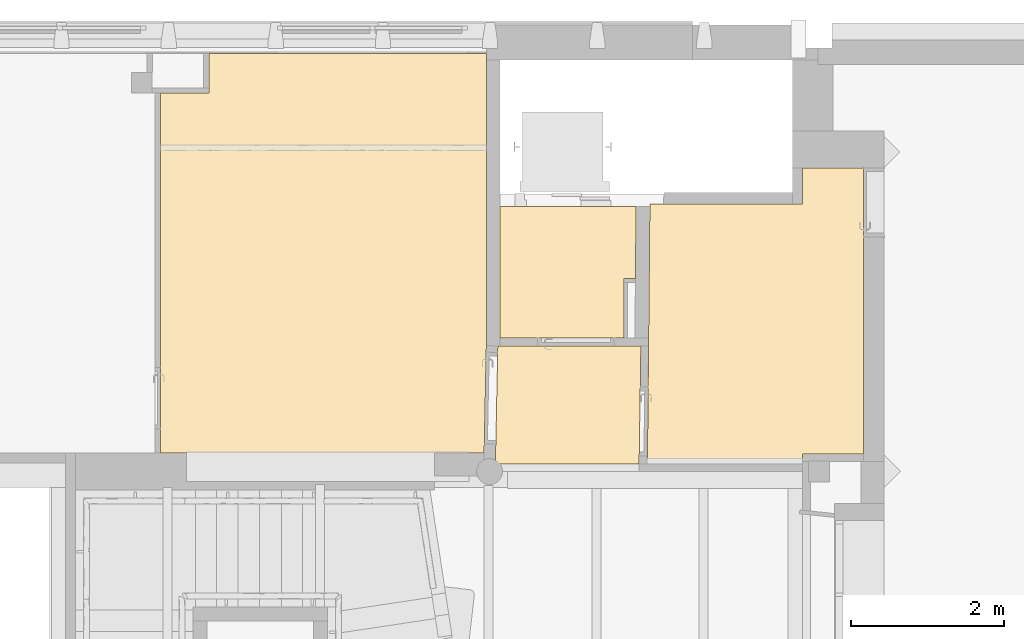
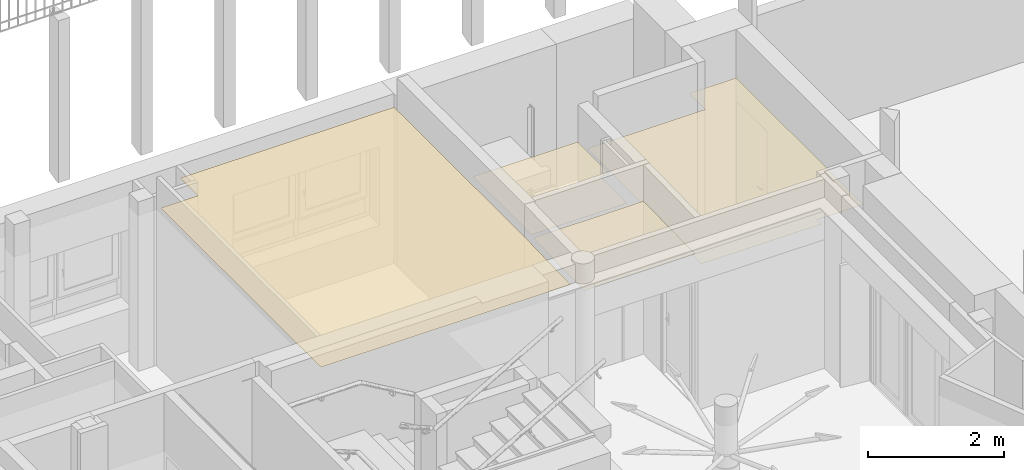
# One storey, part 57 of 65: 5 coverings.
"""IFC4 building model written with IfcOpenShell, lengths in metres."""

from ifc_helpers import new_model, entity, si_unit, converted_unit, derived_unit, direction, frame, origin, place, context, subcontext, project, spatial, polygons, material, layer, layer_set, type_object, element, save


model = new_model("IFC4")

# Units and contexts
model_context = context("Model", 3, precision=1e-05, world=origin(), true_north=direction((6.12303176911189e-17, 1.0)))
body_context = subcontext(model_context, "Body", "Model", "MODEL_VIEW")
ifc_project = project(units=[si_unit("LENGTHUNIT", "METRE"), si_unit("AREAUNIT", "SQUARE_METRE"), si_unit("VOLUMEUNIT", "CUBIC_METRE"), converted_unit("PLANEANGLEUNIT", "DEGREE", entity("IfcRatioMeasure", 0.0174532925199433), si_unit("PLANEANGLEUNIT", "RADIAN"), dimensions=[0, 0, 0, 0, 0, 0, 0]), si_unit("MASSUNIT", "GRAM", prefix="KILO"), derived_unit("MASSDENSITYUNIT", [(si_unit("MASSUNIT", "GRAM", prefix="KILO"), 1), (si_unit("LENGTHUNIT", "METRE"), -3)]), derived_unit("MOMENTOFINERTIAUNIT", [(si_unit("LENGTHUNIT", "METRE"), 4)]), si_unit("TIMEUNIT", "SECOND"), si_unit("FREQUENCYUNIT", "HERTZ"), si_unit("THERMODYNAMICTEMPERATUREUNIT", "DEGREE_CELSIUS"), derived_unit("THERMALTRANSMITTANCEUNIT", [(si_unit("MASSUNIT", "GRAM", prefix="KILO"), 1), (si_unit("THERMODYNAMICTEMPERATUREUNIT", "KELVIN"), -1), (si_unit("TIMEUNIT", "SECOND"), -3)]), derived_unit("VOLUMETRICFLOWRATEUNIT", [(si_unit("LENGTHUNIT", "METRE"), 3), (si_unit("TIMEUNIT", "SECOND"), -1)]), si_unit("ELECTRICCURRENTUNIT", "AMPERE"), si_unit("ELECTRICVOLTAGEUNIT", "VOLT"), si_unit("POWERUNIT", "WATT"), si_unit("FORCEUNIT", "NEWTON", prefix="KILO"), si_unit("ILLUMINANCEUNIT", "LUX"), si_unit("LUMINOUSFLUXUNIT", "LUMEN"), si_unit("LUMINOUSINTENSITYUNIT", "CANDELA"), derived_unit("USERDEFINED", [(si_unit("MASSUNIT", "GRAM", prefix="KILO"), -1), (si_unit("LENGTHUNIT", "METRE"), -2), (si_unit("TIMEUNIT", "SECOND"), 3), (si_unit("LUMINOUSFLUXUNIT", "LUMEN"), 1)]), derived_unit("LINEARVELOCITYUNIT", [(si_unit("LENGTHUNIT", "METRE"), 1), (si_unit("TIMEUNIT", "SECOND"), -1)]), si_unit("PRESSUREUNIT", "PASCAL"), derived_unit("USERDEFINED", [(si_unit("LENGTHUNIT", "METRE"), -2), (si_unit("MASSUNIT", "GRAM", prefix="KILO"), 1), (si_unit("TIMEUNIT", "SECOND"), -2)]), derived_unit("LINEARFORCEUNIT", [(si_unit("MASSUNIT", "GRAM", prefix="KILO"), 1), (si_unit("LENGTHUNIT", "METRE"), 1), (si_unit("TIMEUNIT", "SECOND"), -2), (si_unit("LENGTHUNIT", "METRE"), -1)]), derived_unit("PLANARFORCEUNIT", [(si_unit("MASSUNIT", "GRAM", prefix="KILO"), 1), (si_unit("LENGTHUNIT", "METRE"), 1), (si_unit("TIMEUNIT", "SECOND"), -2), (si_unit("LENGTHUNIT", "METRE"), -2)])], contexts=[model_context])

# Site, building, storey
site_placement = place(None, origin())
site = spatial("IfcSite", under=ifc_project, at=site_placement, Name="Default", CompositionType="ELEMENT")
building_placement = place(site_placement, origin())
building = spatial("IfcBuilding", under=site, at=building_placement, Name="HOTEL CONSULAIRE BOULOGNE SUR MER", CompositionType="ELEMENT")
storey_placement = place(building_placement, origin())
storey = spatial("IfcBuildingStorey", under=building, at=storey_placement, Name="Niveau 0", CompositionType="ELEMENT", Elevation=1.31981936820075e-13)

# Coverings
ifc_material = material(Name="Faux-plafond - Trame 600 x 600", Category="Divers")
ifc_layer = layer(ifc_material, 0.0, Name="Faux-plafond - Trame 600 x 600", Category="Divers")
ifc_layer_set = layer_set([ifc_layer], Name="Plafond de base:Plafond 600 mm x 1200 mm")
covering_type_1 = type_object("IfcCoveringType", Name="Plafond de base:Plafond 600 mm x 1200 mm", PredefinedType="CEILING")
covering_1_placement = place(storey_placement, frame((7.3089802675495, -13.8723552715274, 2.7177)))
element("IfcCovering", 1, at=covering_1_placement, inside=storey, type_object=covering_type_1, material=ifc_layer_set, Name="Plafond de base:Plafond 600 mm x 1200 mm", ObjectType="Plafond de base:Plafond 600 mm x 1200 mm", PredefinedType="CEILING", context=body_context, shape_type="Tessellation", body=[
    polygons([(1.61726908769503, 0.0, 1.27852954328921e-16), (1.61726908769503, 0.776000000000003, 1.27852954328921e-16), (1.76812731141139, 0.776000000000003, 1.27852954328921e-16), (1.77722668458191, 1.72156396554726, 1.27852954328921e-16), (3.24860138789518e-15, 1.72156396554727, 1.27852954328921e-16), (0.0, 6.49720277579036e-15, 1.27852954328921e-16)], [[[5, 6, 1, 2, 3, 4]]], closed=True),
])
covering_type_2 = type_object("IfcCoveringType", Name="Plafond de base:Plafond 600 mm x 1200 mm", PredefinedType="CEILING")
covering_2_placement = place(storey_placement, frame((2.87235114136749, -15.3752420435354, 2.8109)))
element("IfcCovering", 2, at=covering_2_placement, inside=storey, type_object=covering_type_2, material=ifc_layer_set, Name="Plafond de base:Plafond 600 mm x 1200 mm", ObjectType="Plafond de base:Plafond 600 mm x 1200 mm", PredefinedType="CEILING", context=body_context, shape_type="Tessellation", body=[
    polygons([(-5.41433564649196e-16, 6.49720277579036e-15, 1.27852954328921e-16), (3.57888730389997, 0.0, 1.27852954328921e-16), (4.22761158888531, 0.0, 1.27852954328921e-16), (4.25662912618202, 1.41242744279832, 1.27852954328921e-16), (4.25662912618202, 5.22491787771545, 1.27852954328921e-16), (0.632766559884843, 5.22491787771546, 1.27852954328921e-16), (0.632766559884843, 4.70432333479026, 1.27852954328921e-16), (7.03863634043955e-15, 4.70432333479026, 1.27852954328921e-16)], [[[1, 2, 3, 4, 5, 6, 7, 8]]], closed=True),
])
covering_type_3 = type_object("IfcCoveringType", Name="Plafond de base:Plafond 600 mm x 1200 mm", PredefinedType="CEILING")
covering_3_placement = place(storey_placement, frame((2.87235114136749, -15.3752420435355, 2.8109)))
element("IfcCovering", 3, at=covering_3_placement, inside=storey, type_object=covering_type_3, material=ifc_layer_set, Name="Plafond de base:Plafond 600 mm x 1200 mm", ObjectType="Plafond de base:Plafond 600 mm x 1200 mm", PredefinedType="CEILING", context=body_context, shape_type="Tessellation", body=[
    polygons([(6.49720277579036e-15, 4.70432333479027, 1.27852954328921e-16), (-5.41433564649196e-16, 1.08286712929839e-14, 1.27852954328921e-16), (4.22761158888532, 0.0, 1.27852954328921e-16), (4.25662912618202, 1.41242744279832, 1.27852954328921e-16), (4.25662912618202, 5.22491787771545, 1.27852954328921e-16), (0.632766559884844, 5.22491787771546, 1.27852954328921e-16), (0.632766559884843, 4.70432333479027, 1.27852954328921e-16)], [[[7, 1, 2, 3, 4, 5, 6]]], closed=True),
])
covering_type_4 = type_object("IfcCoveringType", Name="Plafond de base:Plafond 600 mm x 1200 mm", PredefinedType="CEILING")
covering_4_placement = place(storey_placement, frame((9.23383199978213, -15.515909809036, 2.518)))
element("IfcCovering", 4, at=covering_4_placement, inside=storey, type_object=covering_type_4, material=ifc_layer_set, Name="Plafond de base:Plafond 600 mm x 1200 mm", ObjectType="Plafond de base:Plafond 600 mm x 1200 mm", PredefinedType="CEILING", context=body_context, shape_type="Tessellation", body=[
    polygons([(0.0, 2.16573425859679e-15, 1.27852954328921e-16), (2.02823327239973, 0.0, 1.27852954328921e-16), (2.02823327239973, 0.130057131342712, 1.27852954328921e-16), (2.82264587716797, 0.13005713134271, 1.27852954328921e-16), (2.82264587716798, 3.86799234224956, 1.27852954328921e-16), (2.02736550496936, 3.86799234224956, 1.27852954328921e-16), (2.02736550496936, 3.39511850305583, 1.27852954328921e-16), (0.0326719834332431, 3.39511850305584, 1.27852954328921e-16)], [[[8, 1, 2, 3, 4, 5, 6, 7]]], closed=True),
])
covering_type_5 = type_object("IfcCoveringType", Name="Plafond de base:Plafond 600 mm x 1200 mm", PredefinedType="CEILING")
covering_5_placement = place(storey_placement, frame((7.24710444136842, -15.515909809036, 2.73868913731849)))
element("IfcCovering", 5, at=covering_5_placement, inside=storey, type_object=covering_type_5, material=ifc_layer_set, Name="Plafond de base:Plafond 600 mm x 1200 mm", ObjectType="Plafond de base:Plafond 600 mm x 1200 mm", PredefinedType="CEILING", context=body_context, shape_type="Tessellation", body=[
    polygons([(0.0317114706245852, 1.54355453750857, 1.27852954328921e-16), (0.0, 0.0, 1.27852954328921e-16), (1.8781596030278, -2.16573425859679e-15, 1.27852954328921e-16), (1.90157002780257, 1.54355453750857, 1.27852954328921e-16)], [[[1, 2, 3, 4]]], closed=True),
])

save(model, "model.ifc")
